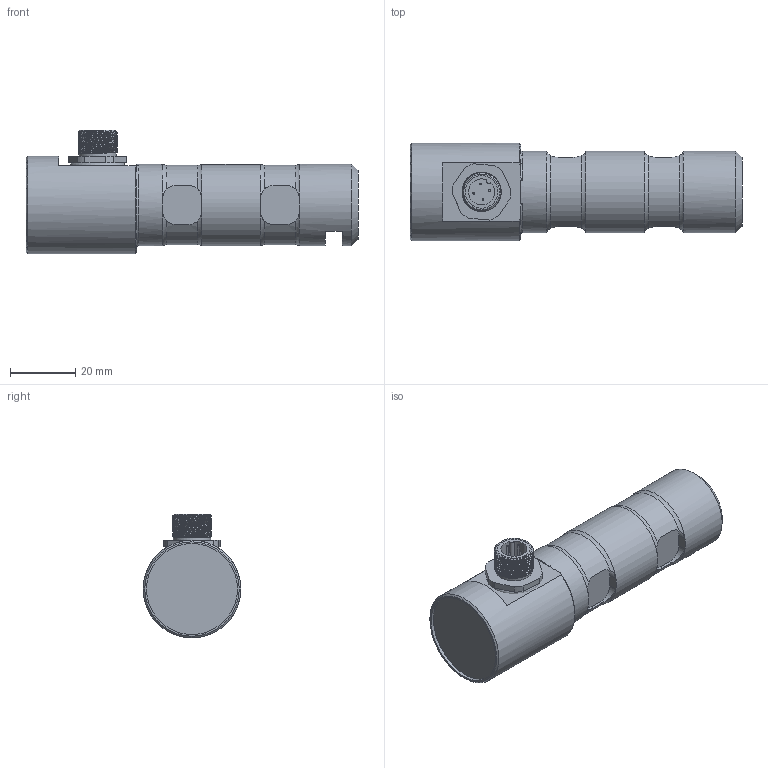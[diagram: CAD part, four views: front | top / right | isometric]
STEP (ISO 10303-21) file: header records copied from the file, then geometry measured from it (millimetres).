
FILE_DESCRIPTION(/* description */ ('Alibre Inc.'),/* implementation_level */ '2;1');
FILE_NAME(/* name */ 'export1',/* time_stamp */ '2018-05-22T11:58:15+02:00',/* author */ (''),/* organization */ (''),/* preprocessor_version */ 'ST-DEVELOPER v17',/* originating_system */ 'Alibre',/* authorisation */ '');
FILE_SCHEMA (('CONFIG_CONTROL_DESIGN'));
Length unit declared in the file: millimetre
Products named in the file (6): ID_1; ID_2; ID_3; ID_4
Bounding box: 102 x 30 x 38 mm (x, y, z)
Volume: 53860.3 mm3; surface area: 13976.7 mm2
Topology: 8 solids, 8 shells, 173 faces, 396 edges, 244 vertices
Faces by surface type: plane 71, cylinder 60, bspline 23, torus 10, cone 9
Full cylindrical faces by diameter (mm): 0.5 x8, 8 x2, 10 x4, 11.5 x1, 13 x1, 14.376 x1, 25 x3, 28 x1, 30 x1
Entity records: 16281 total; most frequent: CARTESIAN_POINT 12560, ORIENTED_EDGE 704, DIRECTION 472, EDGE_CURVE 347, VERTEX_POINT 229, FACE_BOUND 219, EDGE_LOOP 217, AXIS2_PLACEMENT_3D 211
